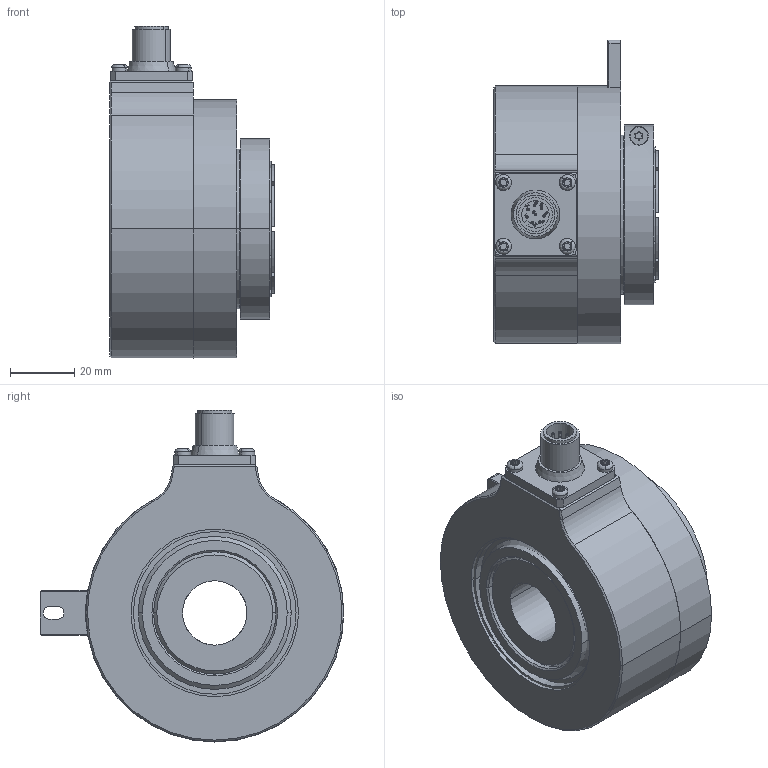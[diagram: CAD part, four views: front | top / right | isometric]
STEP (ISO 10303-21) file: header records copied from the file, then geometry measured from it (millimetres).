
FILE_DESCRIPTION (( 'STEP AP203' ), '1' );
FILE_NAME ('K80I.OXX.XXXXX.XH21820.6XRC5.step', '2025-12-09T10:01:43', ( '' ), ( '' ), 'SwSTEP 2.0', 'SolidWorks 2021', '' );
FILE_SCHEMA (( 'CONFIG_CONTROL_DESIGN' ));
Length unit declared in the file: millimetre
Products named in the file (1): K80I.OXX.XXXXX.XH21820.6XRC5
Bounding box: 51.2 x 94.28 x 103.08 mm (x, y, z)
Volume: 212025.8 mm3; surface area: 71164.7 mm2
Topology: 8 solids, 8 shells, 615 faces, 1636 edges, 1061 vertices
Faces by surface type: plane 250, cylinder 227, bspline 70, cone 42, sphere 16, torus 10
Entity records: 23511 total; most frequent: CARTESIAN_POINT 8437, ORIENTED_EDGE 3192, DIRECTION 3040, EDGE_CURVE 1596, AXIS2_PLACEMENT_3D 1104, VERTEX_POINT 1045, LINE 832, VECTOR 832
